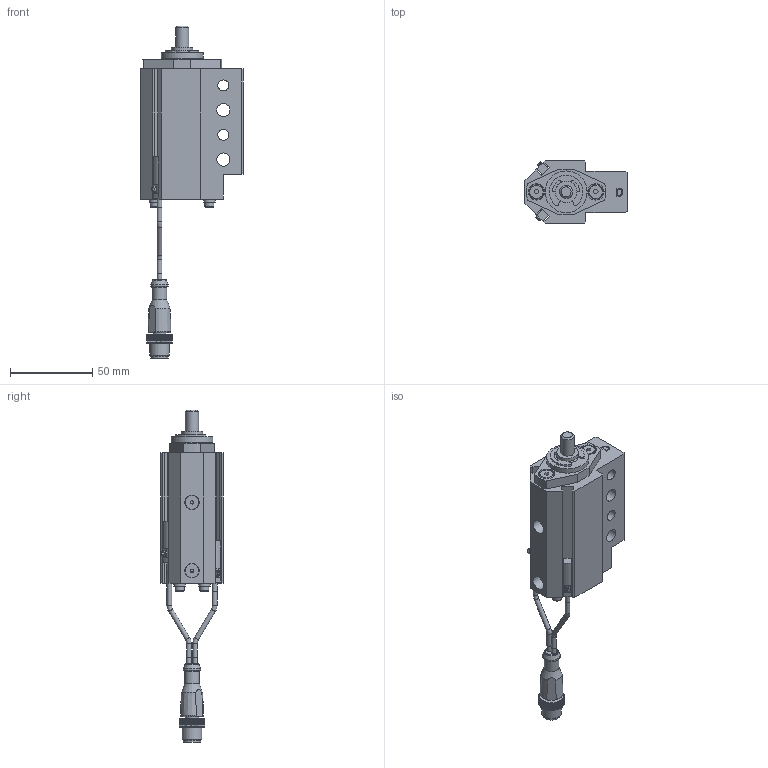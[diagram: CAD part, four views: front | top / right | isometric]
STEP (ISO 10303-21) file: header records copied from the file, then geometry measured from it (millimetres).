
FILE_DESCRIPTION(/* description */ ('NAAMS FLOATING MICRO PIN'),/* implementation_level */ '2;1');
FILE_NAME(/* name */ 'C:\Vault Workspace\CAD\Welker\Shot Pin\NMP\NMP080012EDNL3.stp',/* time_stamp */ '2021-01-28T11:36:03-05:00',/* author */ ('WELKER'),/* organization */ (''),/* preprocessor_version */ 'ST-DEVELOPER v18.1',/* originating_system */ 'Autodesk Inventor 2020',/* authorisation */ '');
FILE_SCHEMA (('AUTOMOTIVE_DESIGN { 1 0 10303 214 3 1 1 }'));
Length unit declared in the file: millimetre
Products named in the file (16): NMPL01; NMP L3 SWITCH; L3 Connector; L3 Sensor 1; L3 Sensor 2; L3 Sensor cable; L3 Sensor cable 2; M3X0.5-8 SHCS; NL3; NMPE06; NMPE03; NMPE04-DIA-LENGTH; 985432A218; NMPE01D-PORT; RMPE02; M5X5 SHOULDER
Assembly tree (22 placements, depth 3):
  NMPL01
    NMP L3 SWITCH
      L3 Connector
      L3 Sensor 1
      L3 Sensor 2
      L3 Sensor cable
      L3 Sensor cable 2
    M3X0.5-8 SHCS  x4
    NL3  x4
    NMPE06
    NMPE03
    NMPE04-DIA-LENGTH
    985432A218
    NMPE01D-PORT
    RMPE02
    M5X5 SHOULDER  x2
Bounding box: 62 x 38.1 x 201.52 mm (x, y, z)
Volume: 111475 mm3; surface area: 44928.1 mm2
Topology: 21 solids, 21 shells, 747 faces, 2019 edges, 1349 vertices
Faces by surface type: plane 549, cylinder 144, cone 31, torus 11, bspline 10, sphere 2
Full cylindrical faces by diameter (mm): 2 x2, 2.459 x4, 2.9 x10, 3 x5, 3.242 x2, 3.4 x4, 4 x2, 5 x6, 5.5 x4, 6.647 x2, 7 x4, 8 x3, 8.3 x2, 9 x3, 10 x3, 10.4 x1, 10.5 x1, 12 x1, 13 x3, 16 x2, 19.05 x3, 21 x1, 22.5 x1, 23.672 x1, 24 x1, 25.4 x1, 25.5 x1, 26.5 x1, 28.677 x1, 29.21 x1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
Entity records: 22795 total; most frequent: CARTESIAN_POINT 4222, ORIENTED_EDGE 3736, DIRECTION 3693, EDGE_CURVE 1868, LINE 1375, VECTOR 1375, VERTEX_POINT 1254, AXIS2_PLACEMENT_3D 1159
